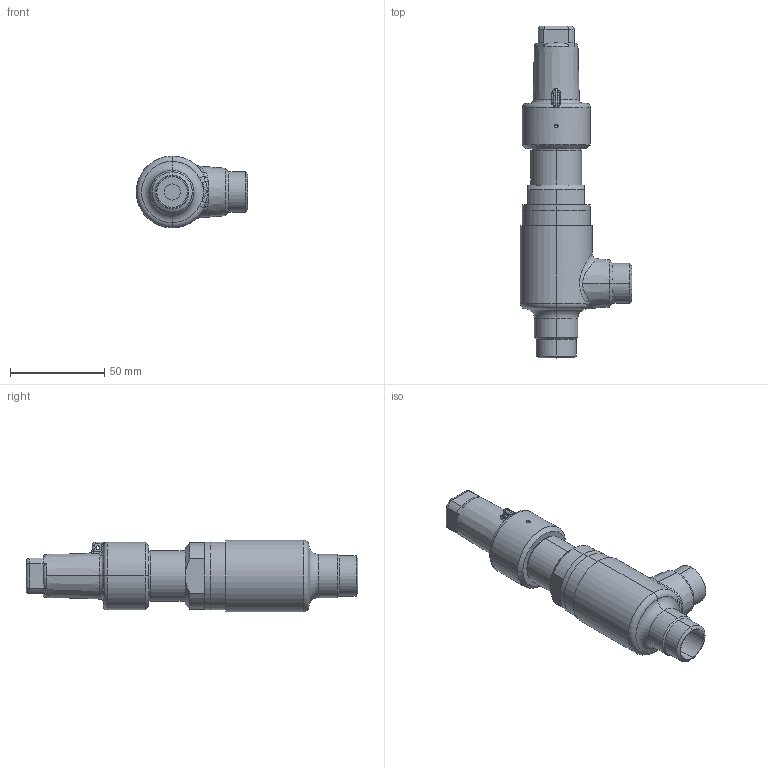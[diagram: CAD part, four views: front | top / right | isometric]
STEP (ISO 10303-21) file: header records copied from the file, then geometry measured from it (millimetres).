
FILE_DESCRIPTION (( 'STEP AP214' ), '1' );
FILE_NAME ('UVA 41200c10-DN15_R1.STEP', '2009-02-11T08:11:56', ( 'Eckhard Grams' ), ( 'AWP Kälte Klima Armaturen GmbH' ), 'SwSTEP 2.0', 'SolidWorks 2002296', '' );
FILE_SCHEMA (( 'AUTOMOTIVE_DESIGN' ));
Length unit declared in the file: millimetre
Products named in the file (4): UVA 41200c10-DN15_R1; Deckel 44353-08-DN10-15_PS40_Standard; Gehäuse41200E10-DN15_PS40_R1_Standard; Kappe 36302-10_DN6-15 (M27x1)_Standard
Assembly tree (3 placements, depth 2):
  UVA 41200c10-DN15_R1
    Kappe 36302-10_DN6-15 (M27x1)_Standard
    Gehäuse41200E10-DN15_PS40_R1_Standard
    Deckel 44353-08-DN10-15_PS40_Standard
Bounding box: 59 x 175.75 x 38 mm (x, y, z)
Volume: 100653.3 mm3; surface area: 36432.3 mm2
Topology: 3 solids, 3 shells, 197 faces, 439 edges, 262 vertices
Faces by surface type: cylinder 77, plane 41, cone 32, torus 28, bspline 19
Entity records: 18948 total; most frequent: CARTESIAN_POINT 13821, DIRECTION 963, ORIENTED_EDGE 878, EDGE_CURVE 439, AXIS2_PLACEMENT_3D 415, VERTEX_POINT 262, CIRCLE 231, EDGE_LOOP 221
